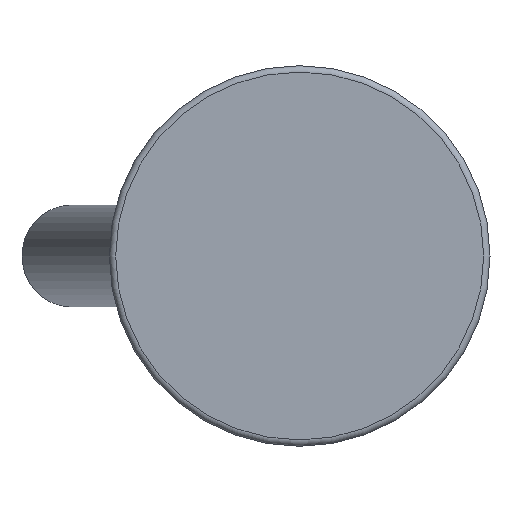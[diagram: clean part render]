
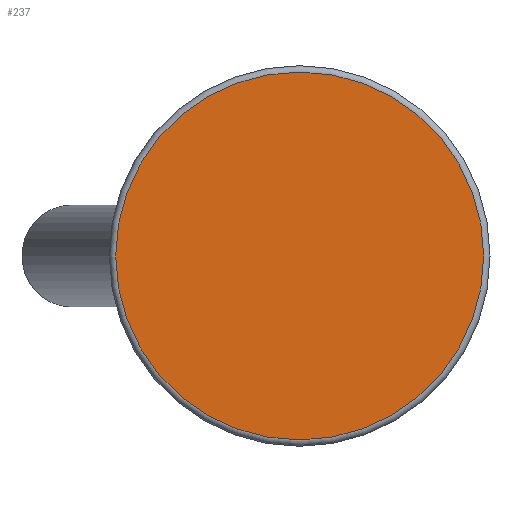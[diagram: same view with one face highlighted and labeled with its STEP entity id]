
A CAD part, front view. The second image highlights one B-rep face of the part: STEP entity #237.
In plain terms, the highlighted planar face has unit normal (0, -1, 0).
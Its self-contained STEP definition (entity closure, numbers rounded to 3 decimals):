
#237 = ADVANCED_FACE( '', ( #452 ), #453, .F. );
#452 = FACE_OUTER_BOUND( '', #652, .T. );
#453 = PLANE( '', #653 );
#652 = EDGE_LOOP( '', ( #1055 ) );
#653 = AXIS2_PLACEMENT_3D( '', #1056, #1057, #1058 );
#1055 = ORIENTED_EDGE( '', *, *, #1137, .T. );
#1056 = CARTESIAN_POINT( '', ( 29., 0., 0. ) );
#1057 = DIRECTION( '', ( 0., 1., 0. ) );
#1058 = DIRECTION( '', ( 0., 0., 1. ) );
#1137 = EDGE_CURVE( '', #1313, #1313, #1314, .T. );
#1313 = VERTEX_POINT( '', #1609 );
#1314 = CIRCLE( '', #1610, 29. );
#1609 = CARTESIAN_POINT( '', ( 0., 0., -29. ) );
#1610 = AXIS2_PLACEMENT_3D( '', #2033, #2034, #2035 );
#2033 = CARTESIAN_POINT( '', ( 0., 0., 0. ) );
#2034 = DIRECTION( '', ( 0., -1., 0. ) );
#2035 = DIRECTION( '', ( 0., 0., -1. ) );
